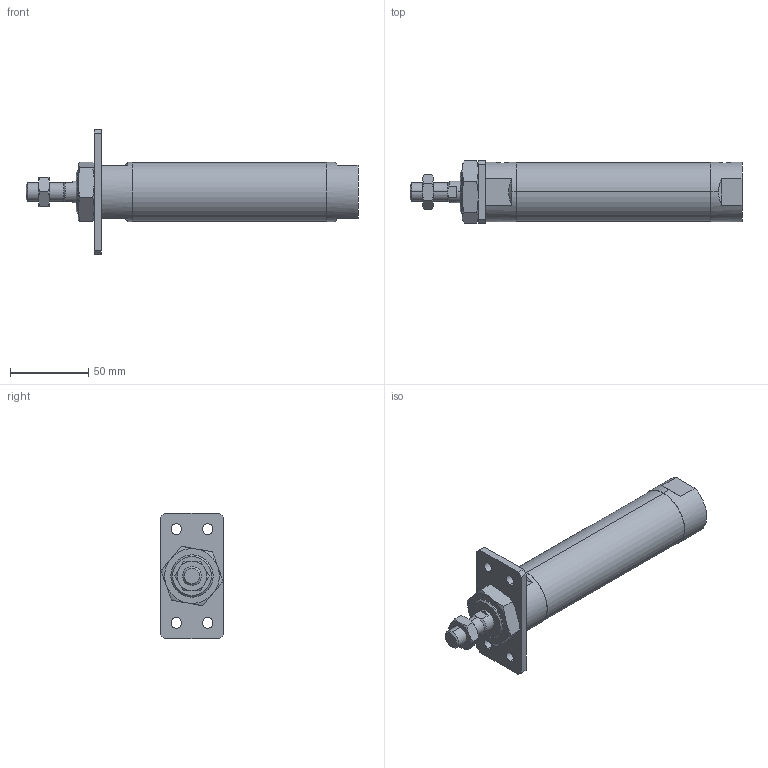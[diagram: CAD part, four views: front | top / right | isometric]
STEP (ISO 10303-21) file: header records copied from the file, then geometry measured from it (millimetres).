
FILE_DESCRIPTION (( 'STEP AP203' ), '1' );
FILE_NAME ('JGND2-32-75-A.STEP', '2016-08-04T02:49:16', ( '' ), ( '' ), 'SwSTEP 2.0', 'SolidWorks 2014', '' );
FILE_SCHEMA (( 'CONFIG_CONTROL_DESIGN' ));
Length unit declared in the file: millimetre
Products named in the file (5): JGND2-32-75-A; J#2-32-75(P); J#2-32-A
Assembly tree (4 placements, depth 2):
  JGND2-32-75-A
    J#2-32-75(P)
    (unnamed)
    (unnamed)
    J#2-32-A
Bounding box: 212 x 40 x 80 mm (x, y, z)
Volume: 210172.2 mm3; surface area: 36334.5 mm2
Topology: 4 solids, 4 shells, 109 faces, 254 edges, 155 vertices
Faces by surface type: plane 42, cylinder 30, torus 24, cone 13
Entity records: 4084 total; most frequent: CARTESIAN_POINT 1128, DIRECTION 511, ORIENTED_EDGE 500, EDGE_CURVE 250, AXIS2_PLACEMENT_3D 208, VERTEX_POINT 155, EDGE_LOOP 129, FACE_OUTER_BOUND 109
